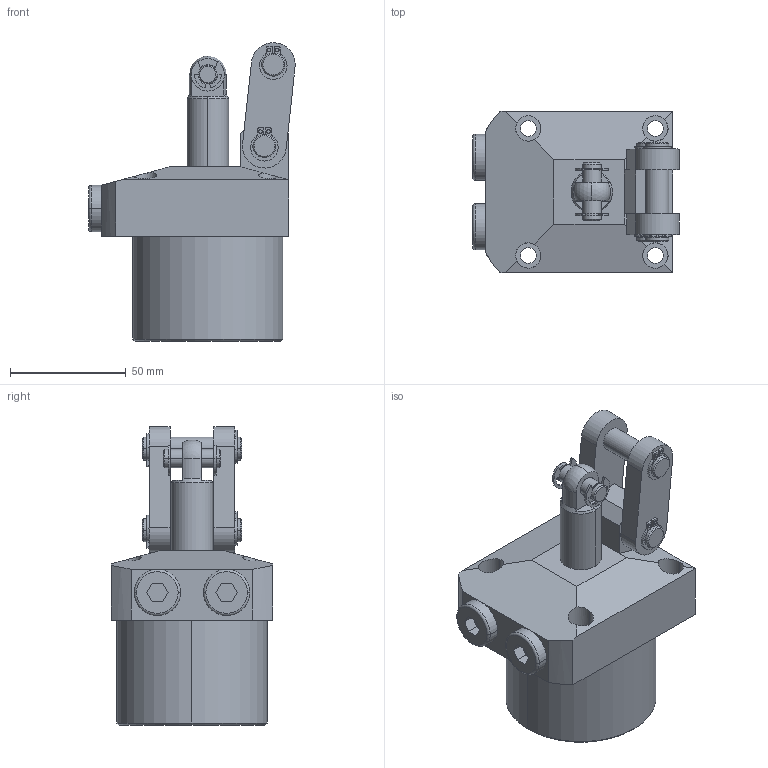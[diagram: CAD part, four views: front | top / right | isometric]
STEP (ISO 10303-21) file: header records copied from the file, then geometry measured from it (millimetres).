
FILE_DESCRIPTION (( 'STEP AP203' ), '1' );
FILE_NAME ('4171 521 C.STEP', '2017-11-25T06:07:31', ( '' ), ( '' ), 'SwSTEP 2.0', 'SolidWorks 2015', '' );
FILE_SCHEMA (( 'CONFIG_CONTROL_DESIGN' ));
Length unit declared in the file: millimetre
Products named in the file (8): (normal) external_is_IS 3075 NE- 10; 4171 521 C; BODY_4171 521 C; PR; PIN 1; LINK; PIN 2; (type e)_is_IS 3075(Part3) - 7
Assembly tree (13 placements, depth 2):
  4171 521 C
    BODY_4171 521 C
    PR
    PIN 1
    LINK  x2
    PIN 2  x2
    (type e)_is_IS 3075(Part3) - 7  x2
    (normal) external_is_IS 3075 NE- 10  x4
Bounding box: 89.31 x 70 x 129.27 mm (x, y, z)
Volume: 330681.4 mm3; surface area: 50396.6 mm2
Topology: 13 solids, 13 shells, 345 faces, 853 edges, 549 vertices
Faces by surface type: cylinder 178, plane 121, cone 40, torus 4, sphere 2
Entity records: 7661 total; most frequent: CARTESIAN_POINT 1291, DIRECTION 1213, ORIENTED_EDGE 1062, EDGE_CURVE 531, AXIS2_PLACEMENT_3D 473, VERTEX_POINT 339, LINE 267, VECTOR 267
